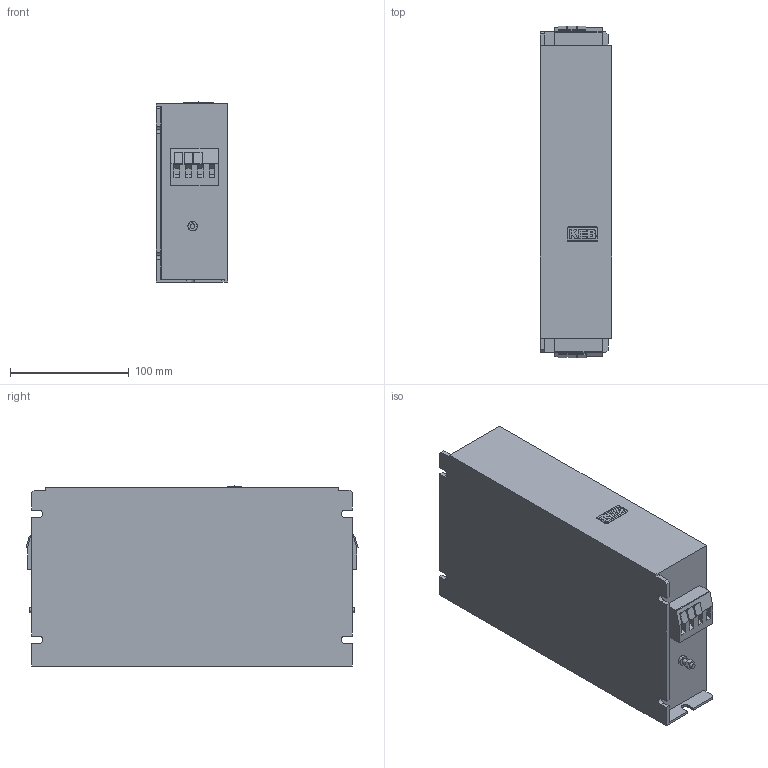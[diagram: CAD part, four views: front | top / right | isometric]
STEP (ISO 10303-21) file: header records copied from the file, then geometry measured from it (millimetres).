
FILE_DESCRIPTION (( 'STEP AP214' ), '1' );
FILE_NAME ('00E6X04-0014.STEP', '2023-07-10T12:03:40', ( '' ), ( '' ), 'SwSTEP 2.0', 'SolidWorks 2022', '' );
FILE_SCHEMA (( 'AUTOMOTIVE_DESIGN' ));
Length unit declared in the file: millimetre
Products named in the file (1): 00E6X04-0014
Bounding box: 60 x 279.47 x 151.52 mm (x, y, z)
Volume: 2265430.1 mm3; surface area: 136469.1 mm2
Topology: 1 solids, 1 shells, 232 faces, 613 edges, 406 vertices
Faces by surface type: plane 176, cylinder 43, bspline 13
Entity records: 8020 total; most frequent: CARTESIAN_POINT 2145, ORIENTED_EDGE 1226, DIRECTION 1039, EDGE_CURVE 613, VECTOR 447, LINE 447, VERTEX_POINT 406, AXIS2_PLACEMENT_3D 296
